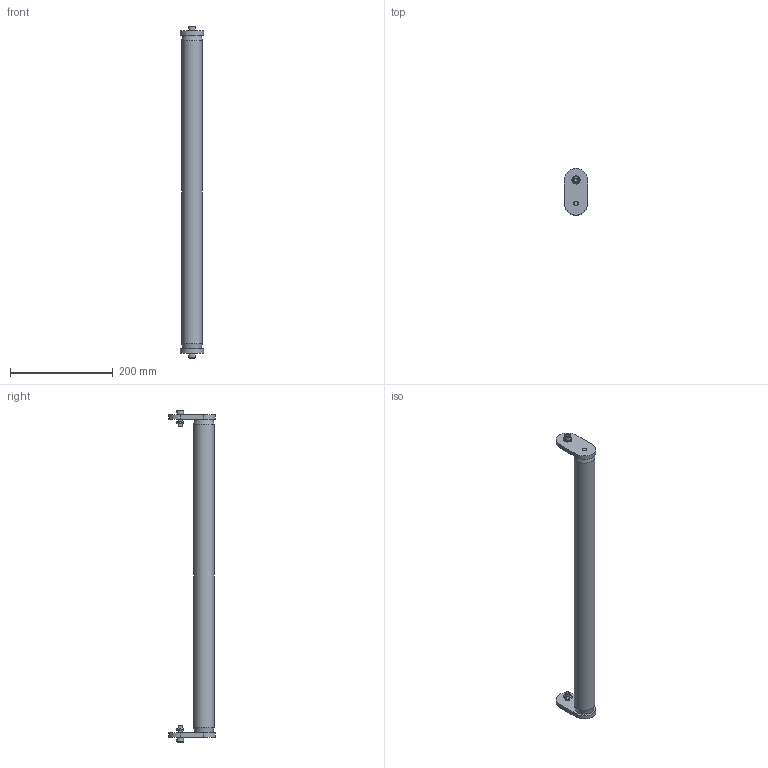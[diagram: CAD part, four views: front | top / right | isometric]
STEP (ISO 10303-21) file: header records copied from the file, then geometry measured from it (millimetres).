
FILE_DESCRIPTION (( 'STEP AP214' ), '1' );
FILE_NAME ('983-004-600.STEP', '2020-11-23T10:25:59', ( '' ), ( '' ), 'SwSTEP 2.0', 'SolidWorks 2020', '' );
FILE_SCHEMA (( 'AUTOMOTIVE_DESIGN' ));
Length unit declared in the file: millimetre
Products named in the file (8): 910-011; 983-003; 982-009; 983-004-600; CHC THE_910-053H; 982-010-600; CHC M8X25 + RP8; RONDELLE_910-111
Assembly tree (8 placements, depth 4):
  983-004-600
    983-003  x2
      982-009
      910-011
      CHC M8X25 + RP8
        CHC THE_910-053H
        RONDELLE_910-111
    982-010-600
Bounding box: 45 x 91 x 645.2 mm (x, y, z)
Volume: 827261.5 mm3; surface area: 102266.4 mm2
Topology: 9 solids, 9 shells, 119 faces, 261 edges, 166 vertices
Faces by surface type: plane 60, cylinder 33, cone 22, torus 4
Full cylindrical faces by diameter (mm): 6 x2, 6.8 x2, 7.98 x2, 8 x4, 8.4 x2, 8.5 x4, 13 x2, 16 x2, 40 x1
Entity records: 2038 total; most frequent: CARTESIAN_POINT 389, DIRECTION 312, ORIENTED_EDGE 228, AXIS2_PLACEMENT_3D 131, EDGE_CURVE 114, EDGE_LOOP 96, VERTEX_POINT 84, FACE_OUTER_BOUND 78
